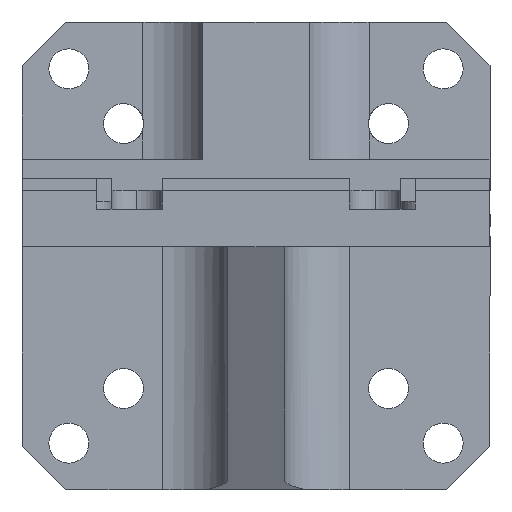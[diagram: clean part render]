
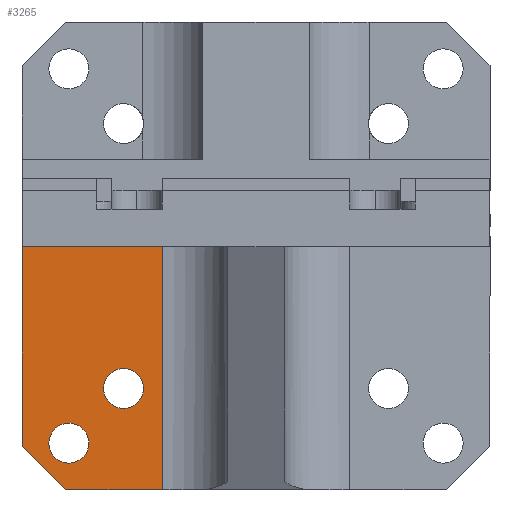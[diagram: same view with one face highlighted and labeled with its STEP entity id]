
A CAD part, left-side view. The second image highlights one B-rep face of the part: STEP entity #3265.
In plain terms, the highlighted planar face has unit normal (-1, 0, 0).
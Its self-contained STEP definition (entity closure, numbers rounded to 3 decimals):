
#32 = DIRECTION ( 'NONE',  ( 0., 1., 0. ) ) ;
#116 = AXIS2_PLACEMENT_3D ( 'NONE', #2085, #151, #2440 ) ;
#129 = AXIS2_PLACEMENT_3D ( 'NONE', #519, #2852, #869 ) ;
#151 = DIRECTION ( 'NONE',  ( -1., 0., 0. ) ) ;
#269 = EDGE_CURVE ( 'NONE', #552, #3540, #3839, .T. ) ;
#291 = EDGE_CURVE ( 'NONE', #3864, #1103, #3821, .T. ) ;
#292 = CARTESIAN_POINT ( 'NONE',  ( 96.3, 30., -31.5 ) ) ;
#358 = DIRECTION ( 'NONE',  ( 0., -0.707, -0.707 ) ) ;
#429 = ORIENTED_EDGE ( 'NONE', *, *, #269, .F. ) ;
#453 = CARTESIAN_POINT ( 'NONE',  ( 96.3, 37.5, 0. ) ) ;
#495 = EDGE_CURVE ( 'NONE', #1617, #1440, #3490, .T. ) ;
#499 = PLANE ( 'NONE',  #1875 ) ;
#500 = EDGE_CURVE ( 'NONE', #1617, #1670, #3500, .T. ) ;
#518 = EDGE_CURVE ( 'NONE', #1103, #3864, #3473, .T. ) ;
#519 = CARTESIAN_POINT ( 'NONE',  ( 96.3, 30., -31.5 ) ) ;
#524 = EDGE_CURVE ( 'NONE', #3540, #552, #3458, .T. ) ;
#533 = EDGE_CURVE ( 'NONE', #1440, #1530, #3465, .T. ) ;
#552 = VERTEX_POINT ( 'NONE', #3247 ) ;
#586 = DIRECTION ( 'NONE',  ( 0., 0., -1. ) ) ;
#593 = EDGE_CURVE ( 'NONE', #1099, #1670, #3374, .T. ) ;
#602 = EDGE_CURVE ( 'NONE', #1530, #1099, #3364, .T. ) ;
#626 = DIRECTION ( 'NONE',  ( 0., 0., 1. ) ) ;
#652 = CARTESIAN_POINT ( 'NONE',  ( 96.3, 21.213, -25.913 ) ) ;
#671 = DIRECTION ( 'NONE',  ( 0., 1., 0. ) ) ;
#737 = ORIENTED_EDGE ( 'NONE', *, *, #518, .F. ) ;
#869 = DIRECTION ( 'NONE',  ( 0., 0., 1. ) ) ;
#926 = FACE_BOUND ( 'NONE', #1728, .T. ) ;
#936 = FACE_OUTER_BOUND ( 'NONE', #1376, .T. ) ;
#948 = FACE_BOUND ( 'NONE', #1367, .T. ) ;
#1056 = ORIENTED_EDGE ( 'NONE', *, *, #500, .F. ) ;
#1099 = VERTEX_POINT ( 'NONE', #2495 ) ;
#1103 = VERTEX_POINT ( 'NONE', #2148 ) ;
#1341 = DIRECTION ( 'NONE',  ( 0., 0., 1. ) ) ;
#1367 = EDGE_LOOP ( 'NONE', ( #1920, #737 ) ) ;
#1376 = EDGE_LOOP ( 'NONE', ( #3810, #2254, #1056, #3993, #2619 ) ) ;
#1440 = VERTEX_POINT ( 'NONE', #2421 ) ;
#1496 = CARTESIAN_POINT ( 'NONE',  ( 96.3, -113.454, 0. ) ) ;
#1530 = VERTEX_POINT ( 'NONE', #453 ) ;
#1592 = CARTESIAN_POINT ( 'NONE',  ( 96.3, 21.213, -22.713 ) ) ;
#1617 = VERTEX_POINT ( 'NONE', #2503 ) ;
#1670 = VERTEX_POINT ( 'NONE', #3710 ) ;
#1728 = EDGE_LOOP ( 'NONE', ( #429, #3213 ) ) ;
#1821 = DIRECTION ( 'NONE',  ( -1., 0., 0. ) ) ;
#1875 = AXIS2_PLACEMENT_3D ( 'NONE', #1496, #1821, #3970 ) ;
#1913 = CARTESIAN_POINT ( 'NONE',  ( 96.3, -113.454, 0. ) ) ;
#1920 = ORIENTED_EDGE ( 'NONE', *, *, #291, .F. ) ;
#1929 = DIRECTION ( 'NONE',  ( 0., 0., 1. ) ) ;
#2085 = CARTESIAN_POINT ( 'NONE',  ( 96.3, 21.213, -22.713 ) ) ;
#2148 = CARTESIAN_POINT ( 'NONE',  ( 96.3, 21.213, -19.513 ) ) ;
#2230 = CARTESIAN_POINT ( 'NONE',  ( 96.3, 30., -28.3 ) ) ;
#2254 = ORIENTED_EDGE ( 'NONE', *, *, #593, .T. ) ;
#2384 = AXIS2_PLACEMENT_3D ( 'NONE', #292, #2625, #626 ) ;
#2421 = CARTESIAN_POINT ( 'NONE',  ( 96.3, 15., 0. ) ) ;
#2440 = DIRECTION ( 'NONE',  ( 0., 0., 1. ) ) ;
#2495 = CARTESIAN_POINT ( 'NONE',  ( 96.3, 37.5, -32. ) ) ;
#2503 = CARTESIAN_POINT ( 'NONE',  ( 96.3, 15., -39. ) ) ;
#2619 = ORIENTED_EDGE ( 'NONE', *, *, #533, .T. ) ;
#2625 = DIRECTION ( 'NONE',  ( -1., 0., 0. ) ) ;
#2703 = CARTESIAN_POINT ( 'NONE',  ( 96.3, -21.977, -91.477 ) ) ;
#2852 = DIRECTION ( 'NONE',  ( -1., 0., 0. ) ) ;
#2974 = CARTESIAN_POINT ( 'NONE',  ( 96.3, -113.454, -39. ) ) ;
#2989 = CARTESIAN_POINT ( 'NONE',  ( 96.3, 37.5, 0. ) ) ;
#3213 = ORIENTED_EDGE ( 'NONE', *, *, #524, .F. ) ;
#3247 = CARTESIAN_POINT ( 'NONE',  ( 96.3, 30., -34.7 ) ) ;
#3265 = ADVANCED_FACE ( 'NONE', ( #926, #948, #936 ), #499, .T. ) ;
#3277 = CARTESIAN_POINT ( 'NONE',  ( 96.3, 15., 0. ) ) ;
#3354 = VECTOR ( 'NONE', #586, 1000. ) ;
#3359 = VECTOR ( 'NONE', #358, 1000. ) ;
#3364 = LINE ( 'NONE', #2989, #3354 ) ;
#3374 = LINE ( 'NONE', #2703, #3359 ) ;
#3434 = VECTOR ( 'NONE', #32, 1000. ) ;
#3458 = CIRCLE ( 'NONE', #2384, 3.2 ) ;
#3465 = LINE ( 'NONE', #1913, #3434 ) ;
#3473 = CIRCLE ( 'NONE', #3922, 3.2 ) ;
#3481 = VECTOR ( 'NONE', #671, 1000. ) ;
#3490 = LINE ( 'NONE', #3277, #3515 ) ;
#3500 = LINE ( 'NONE', #2974, #3481 ) ;
#3515 = VECTOR ( 'NONE', #1341, 1000. ) ;
#3540 = VERTEX_POINT ( 'NONE', #2230 ) ;
#3710 = CARTESIAN_POINT ( 'NONE',  ( 96.3, 30.5, -39. ) ) ;
#3789 = DIRECTION ( 'NONE',  ( -1., 0., 0. ) ) ;
#3810 = ORIENTED_EDGE ( 'NONE', *, *, #602, .T. ) ;
#3821 = CIRCLE ( 'NONE', #116, 3.2 ) ;
#3839 = CIRCLE ( 'NONE', #129, 3.2 ) ;
#3864 = VERTEX_POINT ( 'NONE', #652 ) ;
#3922 = AXIS2_PLACEMENT_3D ( 'NONE', #1592, #3789, #1929 ) ;
#3970 = DIRECTION ( 'NONE',  ( 0., 0., 1. ) ) ;
#3993 = ORIENTED_EDGE ( 'NONE', *, *, #495, .T. ) ;
